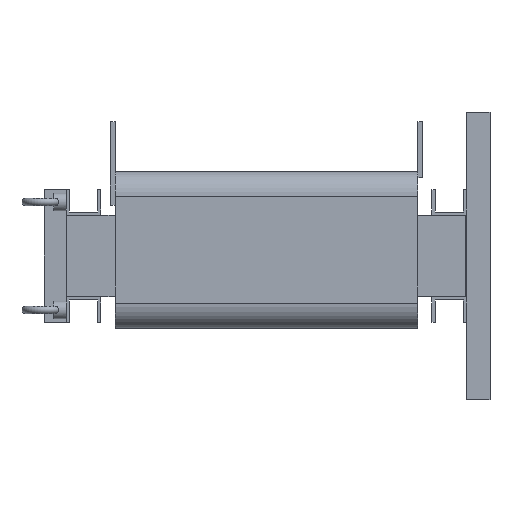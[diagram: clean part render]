
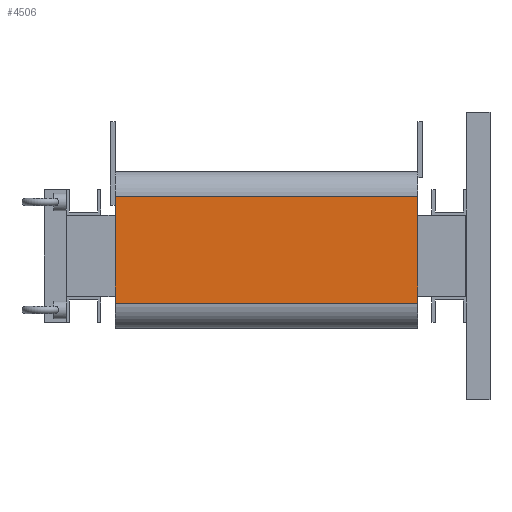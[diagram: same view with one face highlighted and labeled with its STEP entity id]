
A CAD part, left-side view. The second image highlights one B-rep face of the part: STEP entity #4506.
In plain terms, the highlighted planar face has unit normal (-1, 0, 0).
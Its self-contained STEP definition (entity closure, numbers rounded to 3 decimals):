
#429=LINE('',#7498,#945);
#449=LINE('',#7551,#965);
#450=LINE('',#7554,#966);
#451=LINE('',#7555,#967);
#945=VECTOR('',#5864,10.);
#965=VECTOR('',#5912,10.);
#966=VECTOR('',#5915,10.);
#967=VECTOR('',#5916,10.);
#1235=PLANE('',#4856);
#1538=FACE_OUTER_BOUND('',#1828,.T.);
#1828=EDGE_LOOP('',(#4053,#4054,#4055,#4056));
#2324=VERTEX_POINT('',#7495);
#2325=VERTEX_POINT('',#7497);
#2344=VERTEX_POINT('',#7549);
#2345=VERTEX_POINT('',#7553);
#2912=EDGE_CURVE('',#2324,#2325,#429,.T.);
#2940=EDGE_CURVE('',#2344,#2324,#449,.T.);
#2941=EDGE_CURVE('',#2344,#2345,#450,.T.);
#2942=EDGE_CURVE('',#2325,#2345,#451,.T.);
#4053=ORIENTED_EDGE('',*,*,#2940,.F.);
#4054=ORIENTED_EDGE('',*,*,#2941,.T.);
#4055=ORIENTED_EDGE('',*,*,#2942,.F.);
#4056=ORIENTED_EDGE('',*,*,#2912,.F.);
#4506=ADVANCED_FACE('',(#1538),#1235,.T.);
#4856=AXIS2_PLACEMENT_3D('',#7552,#5913,#5914);
#5864=DIRECTION('',(0.,0.,1.));
#5912=DIRECTION('',(0.,1.,0.));
#5913=DIRECTION('center_axis',(-1.,0.,0.));
#5914=DIRECTION('ref_axis',(0.,0.,1.));
#5915=DIRECTION('',(0.,0.,1.));
#5916=DIRECTION('',(0.,-1.,0.));
#7495=CARTESIAN_POINT('',(-285.,562.5,-75.5));
#7497=CARTESIAN_POINT('',(-285.,562.5,95.5));
#7498=CARTESIAN_POINT('',(-285.,562.5,-115.5));
#7549=CARTESIAN_POINT('',(-285.,77.5,-75.5));
#7551=CARTESIAN_POINT('',(-285.,77.5,-75.5));
#7552=CARTESIAN_POINT('Origin',(-285.,77.5,-115.5));
#7553=CARTESIAN_POINT('',(-285.,77.5,95.5));
#7554=CARTESIAN_POINT('',(-285.,77.5,-115.5));
#7555=CARTESIAN_POINT('',(-285.,77.5,95.5));
